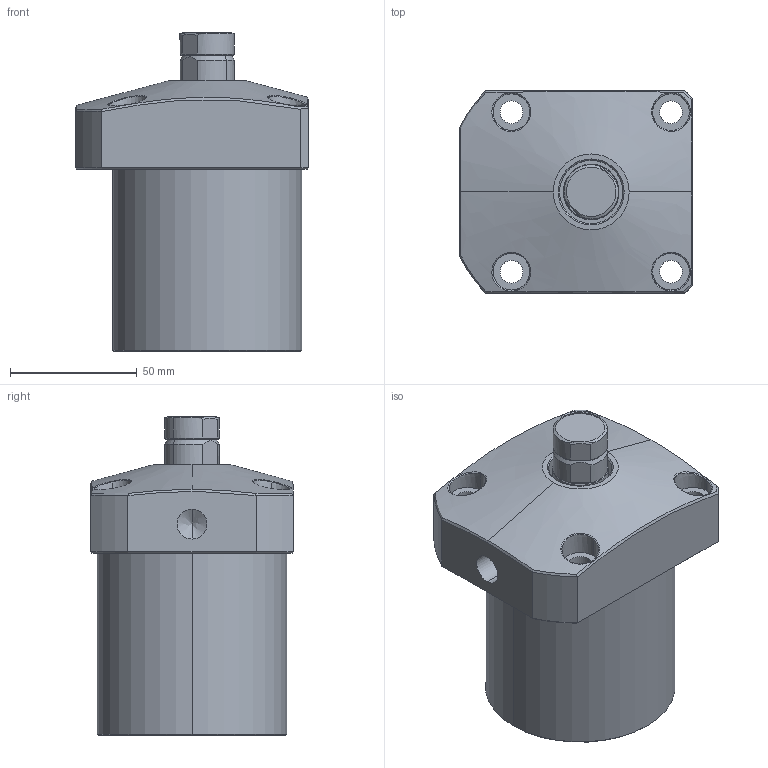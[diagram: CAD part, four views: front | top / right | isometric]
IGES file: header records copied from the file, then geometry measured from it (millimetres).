
Start section: SolidWorks IGES file using analytic representation for surfaces
Global section: file name: E:\FLANGE-WORK-SUPPORT-IGS MODEL\FW10-0775.IGS; native system: SolidWorks 2019; preprocessor: SolidWorks 2019; author: ADMIN; date: 200807.102907; units: millimetre
Bounding box: 92 x 80 x 126 mm (x, y, z)
Volume: 522915.1 mm3; surface area: 53297 mm2
Topology: 3 solids, 3 shells, 135 faces, 316 edges, 195 vertices
Faces by surface type: revolution 83, plane 36, bspline 16
